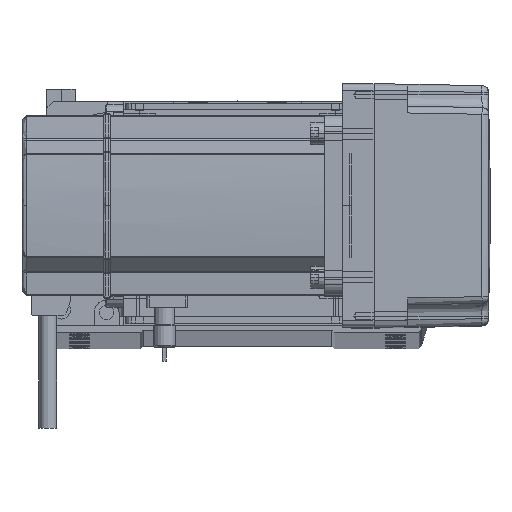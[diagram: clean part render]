
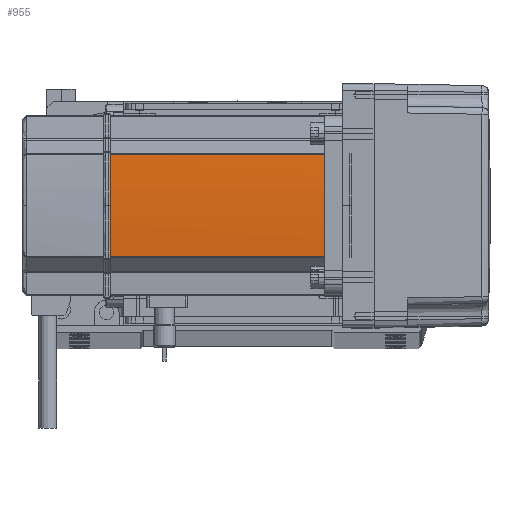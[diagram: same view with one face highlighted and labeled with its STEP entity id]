
A CAD part, top view. The second image highlights one B-rep face of the part: STEP entity #955.
In plain terms, the highlighted cylindrical face has radius 270 mm (diameter 540 mm), a partial arc.
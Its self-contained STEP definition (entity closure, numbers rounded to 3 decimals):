
#955 = ADVANCED_FACE ( 'NONE', ( #64449 ), #5481, .T. ) ;
#4103 = DIRECTION ( 'NONE',  ( 1., 0., 0. ) ) ;
#5481 = CYLINDRICAL_SURFACE ( 'NONE', #11446, 270. ) ;
#6706 = CARTESIAN_POINT ( 'NONE',  ( -39.042, 22.724, 134. ) ) ;
#7186 = VERTEX_POINT ( 'NONE', #6706 ) ;
#8637 = CIRCLE ( 'NONE', #53225, 270. ) ;
#9136 = DIRECTION ( 'NONE',  ( 0., 0., 1. ) ) ;
#9821 = ORIENTED_EDGE ( 'NONE', *, *, #30383, .T. ) ;
#11228 = CARTESIAN_POINT ( 'NONE',  ( -39.042, 22.724, 0. ) ) ;
#11446 = AXIS2_PLACEMENT_3D ( 'NONE', #40927, #9136, #68655 ) ;
#14564 = EDGE_CURVE ( 'NONE', #7186, #40460, #59145, .T. ) ;
#14871 = EDGE_CURVE ( 'NONE', #39199, #40460, #58201, .T. ) ;
#15029 = EDGE_CURVE ( 'NONE', #39199, #48180, #65768, .T. ) ;
#20373 = VECTOR ( 'NONE', #38332, 1000. ) ;
#21577 = ORIENTED_EDGE ( 'NONE', *, *, #14871, .F. ) ;
#22052 = EDGE_LOOP ( 'NONE', ( #9821, #52214, #25384, #21577, #40344 ) ) ;
#24481 = CARTESIAN_POINT ( 'NONE',  ( -39.042, 22.724, 39. ) ) ;
#25384 = ORIENTED_EDGE ( 'NONE', *, *, #14564, .T. ) ;
#26071 = CARTESIAN_POINT ( 'NONE',  ( 230., 0., 134. ) ) ;
#27217 = DIRECTION ( 'NONE',  ( 1., 0., 0. ) ) ;
#30383 = EDGE_CURVE ( 'NONE', #48180, #60212, #8637, .T. ) ;
#32143 = CARTESIAN_POINT ( 'NONE',  ( -39.042, -22.724, 0. ) ) ;
#33676 = CARTESIAN_POINT ( 'NONE',  ( -39.042, -22.724, 134. ) ) ;
#35445 = VECTOR ( 'NONE', #64606, 1000. ) ;
#38332 = DIRECTION ( 'NONE',  ( 0., 0., -1. ) ) ;
#39199 = VERTEX_POINT ( 'NONE', #43532 ) ;
#40344 = ORIENTED_EDGE ( 'NONE', *, *, #15029, .T. ) ;
#40460 = VERTEX_POINT ( 'NONE', #24481 ) ;
#40927 = CARTESIAN_POINT ( 'NONE',  ( 230., 0., 0. ) ) ;
#42841 = AXIS2_PLACEMENT_3D ( 'NONE', #57798, #68356, #4103 ) ;
#43532 = CARTESIAN_POINT ( 'NONE',  ( -39.042, -22.724, 39. ) ) ;
#48180 = VERTEX_POINT ( 'NONE', #33676 ) ;
#50850 = CARTESIAN_POINT ( 'NONE',  ( -40., 0., 134. ) ) ;
#52214 = ORIENTED_EDGE ( 'NONE', *, *, #54065, .T. ) ;
#53225 = AXIS2_PLACEMENT_3D ( 'NONE', #26071, #69150, #59260 ) ;
#54065 = EDGE_CURVE ( 'NONE', #60212, #7186, #60364, .T. ) ;
#54852 = AXIS2_PLACEMENT_3D ( 'NONE', #65113, #65568, #27217 ) ;
#57798 = CARTESIAN_POINT ( 'NONE',  ( 230., 0., 39. ) ) ;
#58201 = CIRCLE ( 'NONE', #42841, 270. ) ;
#59145 = LINE ( 'NONE', #11228, #20373 ) ;
#59260 = DIRECTION ( 'NONE',  ( 1., 0., 0. ) ) ;
#60212 = VERTEX_POINT ( 'NONE', #50850 ) ;
#60364 = CIRCLE ( 'NONE', #54852, 270. ) ;
#64449 = FACE_OUTER_BOUND ( 'NONE', #22052, .T. ) ;
#64606 = DIRECTION ( 'NONE',  ( 0., 0., 1. ) ) ;
#65113 = CARTESIAN_POINT ( 'NONE',  ( 230., 0., 134. ) ) ;
#65568 = DIRECTION ( 'NONE',  ( 0., 0., -1. ) ) ;
#65768 = LINE ( 'NONE', #32143, #35445 ) ;
#68356 = DIRECTION ( 'NONE',  ( 0., 0., -1. ) ) ;
#68655 = DIRECTION ( 'NONE',  ( 1., 0., 0. ) ) ;
#69150 = DIRECTION ( 'NONE',  ( 0., 0., -1. ) ) ;
